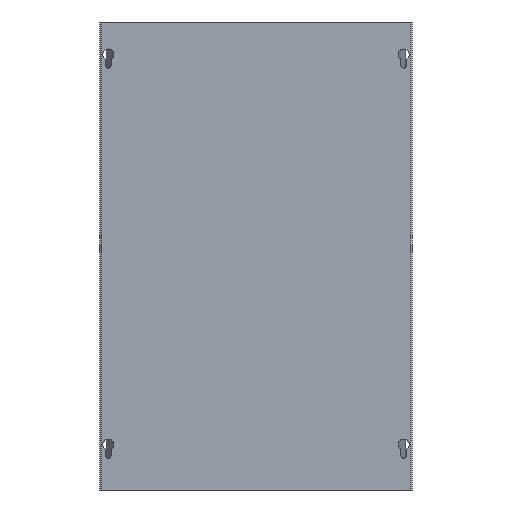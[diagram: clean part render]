
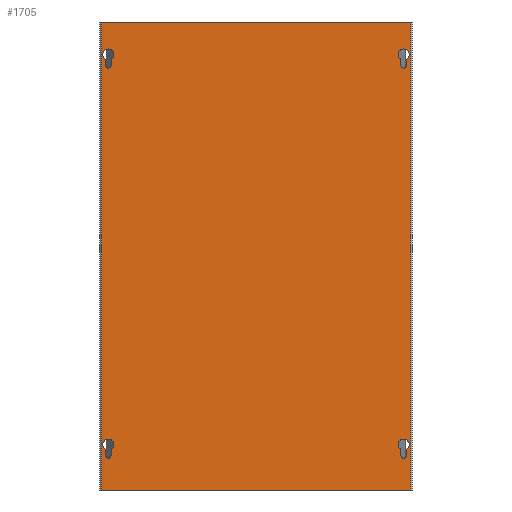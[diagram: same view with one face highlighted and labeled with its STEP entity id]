
A CAD part, front view. The second image highlights one B-rep face of the part: STEP entity #1705.
In plain terms, the highlighted planar face has unit normal (0, -1, 0).
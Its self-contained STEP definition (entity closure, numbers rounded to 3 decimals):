
#5=DIRECTION('',(0.,0.,1.));
#6=VECTOR('',#5,359.913);
#7=CARTESIAN_POINT('',(-119.,0.,-184.913));
#8=LINE('',#7,#6);
#9=DIRECTION('',(0.,0.,1.));
#10=VECTOR('',#9,359.913);
#11=CARTESIAN_POINT('',(119.,0.,-184.913));
#12=LINE('',#11,#10);
#13=DIRECTION('',(-1.,0.,0.));
#14=VECTOR('',#13,238.);
#15=CARTESIAN_POINT('',(119.,0.,-184.913));
#16=LINE('',#15,#14);
#17=CARTESIAN_POINT('',(-113.5,0.,150.));
#18=DIRECTION('',(0.,-1.,0.));
#19=DIRECTION('',(0.494,0.,-0.869));
#20=AXIS2_PLACEMENT_3D('',#17,#18,#19);
#22=DIRECTION('',(0.,0.,-1.));
#23=VECTOR('',#22,4.705);
#24=CARTESIAN_POINT('',(-115.6,0.,146.305));
#25=LINE('',#24,#23);
#26=DIRECTION('',(0.,0.,1.));
#27=VECTOR('',#26,4.705);
#28=CARTESIAN_POINT('',(-111.4,0.,141.6));
#29=LINE('',#28,#27);
#30=CARTESIAN_POINT('',(-113.5,0.,-150.));
#31=DIRECTION('',(0.,-1.,0.));
#32=DIRECTION('',(0.494,0.,-0.869));
#33=AXIS2_PLACEMENT_3D('',#30,#31,#32);
#35=DIRECTION('',(0.,0.,-1.));
#36=VECTOR('',#35,4.705);
#37=CARTESIAN_POINT('',(-115.6,0.,-153.695));
#38=LINE('',#37,#36);
#39=DIRECTION('',(0.,0.,1.));
#40=VECTOR('',#39,4.705);
#41=CARTESIAN_POINT('',(-111.4,0.,-158.4));
#42=LINE('',#41,#40);
#43=CARTESIAN_POINT('',(113.5,0.,-150.));
#44=DIRECTION('',(0.,-1.,0.));
#45=DIRECTION('',(0.494,0.,-0.869));
#46=AXIS2_PLACEMENT_3D('',#43,#44,#45);
#48=DIRECTION('',(0.,0.,-1.));
#49=VECTOR('',#48,4.705);
#50=CARTESIAN_POINT('',(111.4,0.,-153.695));
#51=LINE('',#50,#49);
#52=DIRECTION('',(0.,0.,1.));
#53=VECTOR('',#52,4.705);
#54=CARTESIAN_POINT('',(115.6,0.,-158.4));
#55=LINE('',#54,#53);
#56=CARTESIAN_POINT('',(113.5,0.,150.));
#57=DIRECTION('',(0.,-1.,0.));
#58=DIRECTION('',(0.494,0.,-0.869));
#59=AXIS2_PLACEMENT_3D('',#56,#57,#58);
#61=DIRECTION('',(0.,0.,-1.));
#62=VECTOR('',#61,4.705);
#63=CARTESIAN_POINT('',(111.4,0.,146.305));
#64=LINE('',#63,#62);
#65=DIRECTION('',(0.,0.,1.));
#66=VECTOR('',#65,4.705);
#67=CARTESIAN_POINT('',(115.6,0.,141.6));
#68=LINE('',#67,#66);
#250=DIRECTION('',(-1.,0.,0.));
#251=VECTOR('',#250,238.);
#252=CARTESIAN_POINT('',(119.,0.,175.));
#253=LINE('',#252,#251);
#764=CARTESIAN_POINT('',(-113.5,0.,141.6));
#765=DIRECTION('',(0.,1.,0.));
#766=DIRECTION('',(1.,0.,0.));
#767=AXIS2_PLACEMENT_3D('',#764,#765,#766);
#790=CARTESIAN_POINT('',(-113.5,0.,-158.4));
#791=DIRECTION('',(0.,1.,0.));
#792=DIRECTION('',(1.,0.,0.));
#793=AXIS2_PLACEMENT_3D('',#790,#791,#792);
#886=CARTESIAN_POINT('',(113.5,0.,-158.4));
#887=DIRECTION('',(0.,1.,0.));
#888=DIRECTION('',(1.,0.,0.));
#889=AXIS2_PLACEMENT_3D('',#886,#887,#888);
#912=CARTESIAN_POINT('',(113.5,0.,141.6));
#913=DIRECTION('',(0.,1.,0.));
#914=DIRECTION('',(1.,0.,0.));
#915=AXIS2_PLACEMENT_3D('',#912,#913,#914);
#1413=CARTESIAN_POINT('',(-119.,0.,-184.913));
#1415=VERTEX_POINT('',#1413);
#1450=CARTESIAN_POINT('',(119.,0.,-184.913));
#1451=VERTEX_POINT('',#1450);
#1452=CARTESIAN_POINT('',(-119.,0.,175.));
#1453=VERTEX_POINT('',#1452);
#1454=CARTESIAN_POINT('',(119.,0.,175.));
#1455=VERTEX_POINT('',#1454);
#1520=CARTESIAN_POINT('',(-111.4,0.,146.305));
#1521=CARTESIAN_POINT('',(-115.6,0.,146.305));
#1522=VERTEX_POINT('',#1520);
#1523=VERTEX_POINT('',#1521);
#1524=CARTESIAN_POINT('',(-115.6,0.,141.6));
#1525=VERTEX_POINT('',#1524);
#1526=CARTESIAN_POINT('',(-111.4,0.,141.6));
#1527=VERTEX_POINT('',#1526);
#1528=CARTESIAN_POINT('',(-111.4,0.,-153.695));
#1529=CARTESIAN_POINT('',(-115.6,0.,-153.695));
#1530=VERTEX_POINT('',#1528);
#1531=VERTEX_POINT('',#1529);
#1532=CARTESIAN_POINT('',(-115.6,0.,-158.4));
#1533=VERTEX_POINT('',#1532);
#1534=CARTESIAN_POINT('',(-111.4,0.,-158.4));
#1535=VERTEX_POINT('',#1534);
#1536=CARTESIAN_POINT('',(115.6,0.,-153.695));
#1537=CARTESIAN_POINT('',(111.4,0.,-153.695));
#1538=VERTEX_POINT('',#1536);
#1539=VERTEX_POINT('',#1537);
#1540=CARTESIAN_POINT('',(111.4,0.,-158.4));
#1541=VERTEX_POINT('',#1540);
#1542=CARTESIAN_POINT('',(115.6,0.,-158.4));
#1543=VERTEX_POINT('',#1542);
#1544=CARTESIAN_POINT('',(115.6,0.,146.305));
#1545=CARTESIAN_POINT('',(111.4,0.,146.305));
#1546=VERTEX_POINT('',#1544);
#1547=VERTEX_POINT('',#1545);
#1548=CARTESIAN_POINT('',(111.4,0.,141.6));
#1549=VERTEX_POINT('',#1548);
#1550=CARTESIAN_POINT('',(115.6,0.,141.6));
#1551=VERTEX_POINT('',#1550);
#1651=CARTESIAN_POINT('',(155.545,0.,-184.913));
#1652=DIRECTION('',(0.,-1.,0.));
#1653=DIRECTION('',(0.,0.,1.));
#1654=AXIS2_PLACEMENT_3D('',#1651,#1652,#1653);
#1655=PLANE('',#1654);
#1657=ORIENTED_EDGE('',*,*,#1656,.T.);
#1659=ORIENTED_EDGE('',*,*,#1658,.F.);
#1661=ORIENTED_EDGE('',*,*,#1660,.F.);
#1663=ORIENTED_EDGE('',*,*,#1662,.T.);
#1664=EDGE_LOOP('',(#1657,#1659,#1661,#1663));
#1665=FACE_OUTER_BOUND('',#1664,.F.);
#1667=ORIENTED_EDGE('',*,*,#1666,.T.);
#1669=ORIENTED_EDGE('',*,*,#1668,.T.);
#1671=ORIENTED_EDGE('',*,*,#1670,.F.);
#1673=ORIENTED_EDGE('',*,*,#1672,.T.);
#1674=EDGE_LOOP('',(#1667,#1669,#1671,#1673));
#1675=FACE_BOUND('',#1674,.F.);
#1677=ORIENTED_EDGE('',*,*,#1676,.T.);
#1679=ORIENTED_EDGE('',*,*,#1678,.T.);
#1681=ORIENTED_EDGE('',*,*,#1680,.F.);
#1682=ORIENTED_EDGE('',*,*,#1640,.T.);
#1683=EDGE_LOOP('',(#1677,#1679,#1681,#1682));
#1684=FACE_BOUND('',#1683,.F.);
#1686=ORIENTED_EDGE('',*,*,#1685,.T.);
#1688=ORIENTED_EDGE('',*,*,#1687,.T.);
#1690=ORIENTED_EDGE('',*,*,#1689,.F.);
#1692=ORIENTED_EDGE('',*,*,#1691,.T.);
#1693=EDGE_LOOP('',(#1686,#1688,#1690,#1692));
#1694=FACE_BOUND('',#1693,.F.);
#1696=ORIENTED_EDGE('',*,*,#1695,.T.);
#1698=ORIENTED_EDGE('',*,*,#1697,.T.);
#1700=ORIENTED_EDGE('',*,*,#1699,.F.);
#1702=ORIENTED_EDGE('',*,*,#1701,.T.);
#1703=EDGE_LOOP('',(#1696,#1698,#1700,#1702));
#1704=FACE_BOUND('',#1703,.F.);
#1705=ADVANCED_FACE('',(#1665,#1675,#1684,#1694,#1704),#1655,.T.);
#21=CIRCLE('',#20,4.25);
#34=CIRCLE('',#33,4.25);
#47=CIRCLE('',#46,4.25);
#60=CIRCLE('',#59,4.25);
#768=CIRCLE('',#767,2.1);
#794=CIRCLE('',#793,2.1);
#890=CIRCLE('',#889,2.1);
#916=CIRCLE('',#915,2.1);
#1640=EDGE_CURVE('',#1535,#1530,#42,.T.);
#1656=EDGE_CURVE('',#1415,#1453,#8,.T.);
#1658=EDGE_CURVE('',#1455,#1453,#253,.T.);
#1660=EDGE_CURVE('',#1451,#1455,#12,.T.);
#1662=EDGE_CURVE('',#1451,#1415,#16,.T.);
#1666=EDGE_CURVE('',#1522,#1523,#21,.T.);
#1668=EDGE_CURVE('',#1523,#1525,#25,.T.);
#1670=EDGE_CURVE('',#1527,#1525,#768,.T.);
#1672=EDGE_CURVE('',#1527,#1522,#29,.T.);
#1676=EDGE_CURVE('',#1530,#1531,#34,.T.);
#1678=EDGE_CURVE('',#1531,#1533,#38,.T.);
#1680=EDGE_CURVE('',#1535,#1533,#794,.T.);
#1685=EDGE_CURVE('',#1538,#1539,#47,.T.);
#1687=EDGE_CURVE('',#1539,#1541,#51,.T.);
#1689=EDGE_CURVE('',#1543,#1541,#890,.T.);
#1691=EDGE_CURVE('',#1543,#1538,#55,.T.);
#1695=EDGE_CURVE('',#1546,#1547,#60,.T.);
#1697=EDGE_CURVE('',#1547,#1549,#64,.T.);
#1699=EDGE_CURVE('',#1551,#1549,#916,.T.);
#1701=EDGE_CURVE('',#1551,#1546,#68,.T.);
